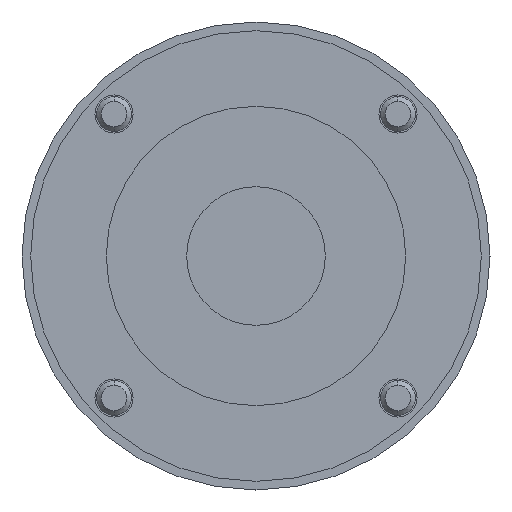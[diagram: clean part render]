
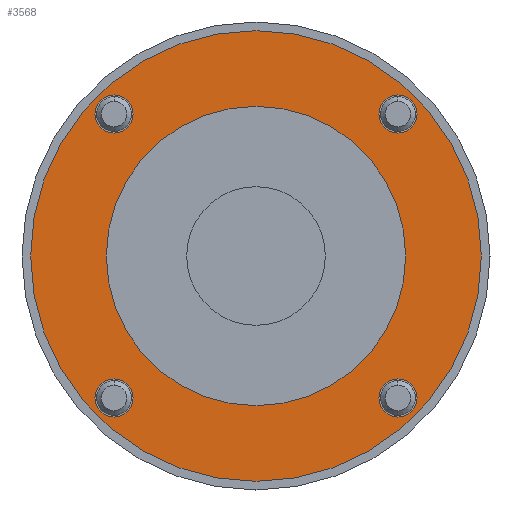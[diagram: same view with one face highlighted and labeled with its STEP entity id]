
A CAD part, left-side view. The second image highlights one B-rep face of the part: STEP entity #3568.
In plain terms, the highlighted planar face has unit normal (-1, 0, 0).
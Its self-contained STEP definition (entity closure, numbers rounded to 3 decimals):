
#787 = VERTEX_POINT ( 'NONE', #5786 ) ;
#803 = EDGE_CURVE ( 'NONE', #810, #812, #5750, .T. ) ;
#810 = VERTEX_POINT ( 'NONE', #5731 ) ;
#812 = VERTEX_POINT ( 'NONE', #5732 ) ;
#875 = VERTEX_POINT ( 'NONE', #1619 ) ;
#877 = VERTEX_POINT ( 'NONE', #1740 ) ;
#880 = EDGE_CURVE ( 'NONE', #976, #875, #1620, .T. ) ;
#886 = EDGE_CURVE ( 'NONE', #877, #972, #1715, .T. ) ;
#972 = VERTEX_POINT ( 'NONE', #1365 ) ;
#976 = VERTEX_POINT ( 'NONE', #1346 ) ;
#1112 = CARTESIAN_POINT ( 'NONE',  ( 3.5, 0., 0. ) ) ;
#1116 = AXIS2_PLACEMENT_3D ( 'NONE', #1112, #1122, #1118 ) ;
#1118 = DIRECTION ( 'NONE',  ( 0., 0., 1. ) ) ;
#1119 = CIRCLE ( 'NONE', #1116, 39. ) ;
#1122 = DIRECTION ( 'NONE',  ( -1., 0., 0. ) ) ;
#1346 = CARTESIAN_POINT ( 'NONE',  ( 3.5, 24.572, -21.272 ) ) ;
#1365 = CARTESIAN_POINT ( 'NONE',  ( 3.5, -24.572, -27.872 ) ) ;
#1619 = CARTESIAN_POINT ( 'NONE',  ( 3.5, 24.572, -27.872 ) ) ;
#1620 = CIRCLE ( 'NONE', #1720, 3.3 ) ;
#1668 = DIRECTION ( 'NONE',  ( 0., 0., -1. ) ) ;
#1669 = AXIS2_PLACEMENT_3D ( 'NONE', #1724, #1710, #1668 ) ;
#1710 = DIRECTION ( 'NONE',  ( 1., 0., 0. ) ) ;
#1715 = CIRCLE ( 'NONE', #1669, 3.3 ) ;
#1717 = DIRECTION ( 'NONE',  ( 0., 0., -1. ) ) ;
#1718 = DIRECTION ( 'NONE',  ( 1., 0., 0. ) ) ;
#1719 = CARTESIAN_POINT ( 'NONE',  ( 3.5, 24.572, -24.572 ) ) ;
#1720 = AXIS2_PLACEMENT_3D ( 'NONE', #1719, #1718, #1717 ) ;
#1724 = CARTESIAN_POINT ( 'NONE',  ( 3.5, -24.572, -24.572 ) ) ;
#1740 = CARTESIAN_POINT ( 'NONE',  ( 3.5, -24.572, -21.272 ) ) ;
#2018 = CARTESIAN_POINT ( 'NONE',  ( 3.5, 0., 25.9 ) ) ;
#2020 = DIRECTION ( 'NONE',  ( 0., 0., 1. ) ) ;
#2021 = DIRECTION ( 'NONE',  ( -1., 0., 0. ) ) ;
#2022 = CARTESIAN_POINT ( 'NONE',  ( 3.5, 0., 0. ) ) ;
#2023 = AXIS2_PLACEMENT_3D ( 'NONE', #2022, #2021, #2020 ) ;
#2024 = CIRCLE ( 'NONE', #2023, 25.9 ) ;
#2072 = CARTESIAN_POINT ( 'NONE',  ( 3.5, 0., -39. ) ) ;
#2076 = CARTESIAN_POINT ( 'NONE',  ( 3.5, 0., 39. ) ) ;
#2136 = CARTESIAN_POINT ( 'NONE',  ( 3.5, 0., -25.9 ) ) ;
#2261 = AXIS2_PLACEMENT_3D ( 'NONE', #2448, #2457, #2458 ) ;
#2262 = FACE_BOUND ( 'NONE', #3685, .T. ) ;
#2264 = DIRECTION ( 'NONE',  ( 0., 0., 1. ) ) ;
#2432 = CIRCLE ( 'NONE', #2261, 3.3 ) ;
#2448 = CARTESIAN_POINT ( 'NONE',  ( 3.5, 24.572, -24.572 ) ) ;
#2457 = DIRECTION ( 'NONE',  ( 1., 0., 0. ) ) ;
#2458 = DIRECTION ( 'NONE',  ( 0., 0., -1. ) ) ;
#2460 = AXIS2_PLACEMENT_3D ( 'NONE', #2464, #2463, #2468 ) ;
#2462 = FACE_BOUND ( 'NONE', #3687, .T. ) ;
#2463 = DIRECTION ( 'NONE',  ( 1., 0., 0. ) ) ;
#2464 = CARTESIAN_POINT ( 'NONE',  ( 3.5, 39., 0. ) ) ;
#2465 = PLANE ( 'NONE',  #2460 ) ;
#2468 = DIRECTION ( 'NONE',  ( 0., 0., -1. ) ) ;
#2471 = FACE_OUTER_BOUND ( 'NONE', #3651, .T. ) ;
#2478 = CIRCLE ( 'NONE', #2485, 39. ) ;
#2479 = FACE_BOUND ( 'NONE', #3572, .T. ) ;
#2483 = DIRECTION ( 'NONE',  ( -1., 0., 0. ) ) ;
#2484 = CARTESIAN_POINT ( 'NONE',  ( 3.5, 0., 0. ) ) ;
#2485 = AXIS2_PLACEMENT_3D ( 'NONE', #2484, #2483, #2264 ) ;
#2486 = FACE_BOUND ( 'NONE', #3563, .T. ) ;
#2501 = FACE_BOUND ( 'NONE', #3561, .T. ) ;
#2554 = CARTESIAN_POINT ( 'NONE',  ( 3.5, -24.572, 24.572 ) ) ;
#2578 = AXIS2_PLACEMENT_3D ( 'NONE', #2612, #2605, #2630 ) ;
#2591 = CIRCLE ( 'NONE', #2578, 3.3 ) ;
#2593 = CIRCLE ( 'NONE', #2620, 3.3 ) ;
#2602 = DIRECTION ( 'NONE',  ( 0., 0., -1. ) ) ;
#2603 = DIRECTION ( 'NONE',  ( 1., 0., 0. ) ) ;
#2605 = DIRECTION ( 'NONE',  ( 1., 0., 0. ) ) ;
#2612 = CARTESIAN_POINT ( 'NONE',  ( 3.5, -24.572, -24.572 ) ) ;
#2620 = AXIS2_PLACEMENT_3D ( 'NONE', #2554, #2603, #2602 ) ;
#2630 = DIRECTION ( 'NONE',  ( 0., 0., -1. ) ) ;
#2726 = CIRCLE ( 'NONE', #2899, 25.9 ) ;
#2855 = DIRECTION ( 'NONE',  ( 0., 0., -1. ) ) ;
#2858 = AXIS2_PLACEMENT_3D ( 'NONE', #2864, #2865, #2855 ) ;
#2864 = CARTESIAN_POINT ( 'NONE',  ( 3.5, 24.572, 24.572 ) ) ;
#2865 = DIRECTION ( 'NONE',  ( 1., 0., 0. ) ) ;
#2872 = CIRCLE ( 'NONE', #2858, 3.3 ) ;
#2897 = DIRECTION ( 'NONE',  ( 0., 0., 1. ) ) ;
#2898 = DIRECTION ( 'NONE',  ( -1., 0., 0. ) ) ;
#2899 = AXIS2_PLACEMENT_3D ( 'NONE', #2903, #2898, #2897 ) ;
#2903 = CARTESIAN_POINT ( 'NONE',  ( 3.5, 0., 0. ) ) ;
#3036 = CIRCLE ( 'NONE', #3092, 3.3 ) ;
#3087 = CARTESIAN_POINT ( 'NONE',  ( 3.5, 24.572, 21.272 ) ) ;
#3090 = DIRECTION ( 'NONE',  ( 0., 0., -1. ) ) ;
#3091 = DIRECTION ( 'NONE',  ( 1., 0., 0. ) ) ;
#3092 = AXIS2_PLACEMENT_3D ( 'NONE', #3099, #3091, #3090 ) ;
#3099 = CARTESIAN_POINT ( 'NONE',  ( 3.5, 24.572, 24.572 ) ) ;
#3189 = EDGE_CURVE ( 'NONE', #787, #3199, #3036, .T. ) ;
#3199 = VERTEX_POINT ( 'NONE', #3087 ) ;
#3272 = EDGE_CURVE ( 'NONE', #3424, #3425, #1119, .T. ) ;
#3377 = VERTEX_POINT ( 'NONE', #2136 ) ;
#3416 = VERTEX_POINT ( 'NONE', #2018 ) ;
#3417 = EDGE_CURVE ( 'NONE', #3377, #3416, #2024, .T. ) ;
#3424 = VERTEX_POINT ( 'NONE', #2072 ) ;
#3425 = VERTEX_POINT ( 'NONE', #2076 ) ;
#3558 = ORIENTED_EDGE ( 'NONE', *, *, #3566, .T. ) ;
#3560 = EDGE_CURVE ( 'NONE', #3425, #3424, #2478, .T. ) ;
#3561 = EDGE_LOOP ( 'NONE', ( #3558, #3569 ) ) ;
#3563 = EDGE_LOOP ( 'NONE', ( #3570, #3688 ) ) ;
#3565 = ORIENTED_EDGE ( 'NONE', *, *, #886, .T. ) ;
#3566 = EDGE_CURVE ( 'NONE', #875, #976, #2432, .T. ) ;
#3568 = ADVANCED_FACE ( 'NONE', ( #2501, #2479, #2486, #2262, #2462, #2471 ), #2465, .F. ) ;
#3569 = ORIENTED_EDGE ( 'NONE', *, *, #880, .T. ) ;
#3570 = ORIENTED_EDGE ( 'NONE', *, *, #3573, .T. ) ;
#3571 = EDGE_CURVE ( 'NONE', #972, #877, #2591, .T. ) ;
#3572 = EDGE_LOOP ( 'NONE', ( #3574, #3565 ) ) ;
#3573 = EDGE_CURVE ( 'NONE', #812, #810, #2593, .T. ) ;
#3574 = ORIENTED_EDGE ( 'NONE', *, *, #3571, .T. ) ;
#3650 = ORIENTED_EDGE ( 'NONE', *, *, #3189, .T. ) ;
#3651 = EDGE_LOOP ( 'NONE', ( #3659, #3673 ) ) ;
#3653 = EDGE_CURVE ( 'NONE', #3416, #3377, #2726, .T. ) ;
#3654 = ORIENTED_EDGE ( 'NONE', *, *, #3417, .F. ) ;
#3659 = ORIENTED_EDGE ( 'NONE', *, *, #3560, .T. ) ;
#3673 = ORIENTED_EDGE ( 'NONE', *, *, #3272, .T. ) ;
#3685 = EDGE_LOOP ( 'NONE', ( #3686, #3650 ) ) ;
#3686 = ORIENTED_EDGE ( 'NONE', *, *, #3690, .T. ) ;
#3687 = EDGE_LOOP ( 'NONE', ( #3689, #3654 ) ) ;
#3688 = ORIENTED_EDGE ( 'NONE', *, *, #803, .T. ) ;
#3689 = ORIENTED_EDGE ( 'NONE', *, *, #3653, .F. ) ;
#3690 = EDGE_CURVE ( 'NONE', #3199, #787, #2872, .T. ) ;
#5731 = CARTESIAN_POINT ( 'NONE',  ( 3.5, -24.572, 27.872 ) ) ;
#5732 = CARTESIAN_POINT ( 'NONE',  ( 3.5, -24.572, 21.272 ) ) ;
#5740 = DIRECTION ( 'NONE',  ( 0., 0., -1. ) ) ;
#5741 = DIRECTION ( 'NONE',  ( 1., 0., 0. ) ) ;
#5742 = AXIS2_PLACEMENT_3D ( 'NONE', #5751, #5741, #5740 ) ;
#5750 = CIRCLE ( 'NONE', #5742, 3.3 ) ;
#5751 = CARTESIAN_POINT ( 'NONE',  ( 3.5, -24.572, 24.572 ) ) ;
#5786 = CARTESIAN_POINT ( 'NONE',  ( 3.5, 24.572, 27.872 ) ) ;
